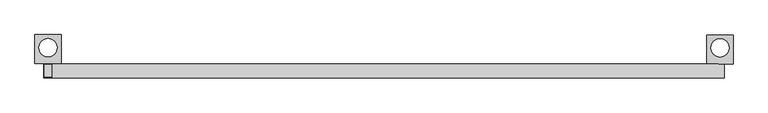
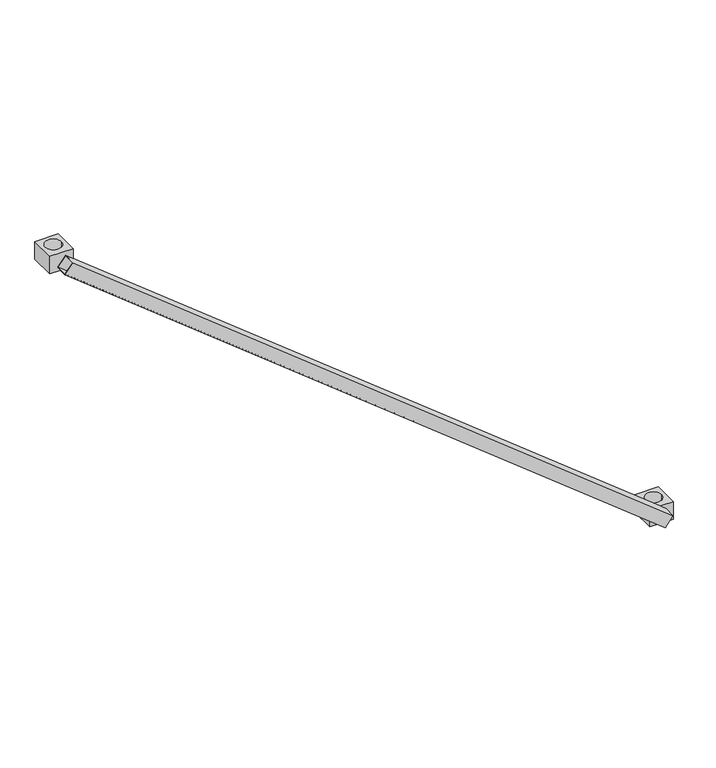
"""IFC4 building model written with IfcOpenShell, lengths in millimetres: proxy geometry, AK_アルバトロスAK伸縮斜材 : H1800×L1800."""

from ifc_helpers import new_model, si_unit, point, frame, frame_2d, origin, place, context, project, spatial, polyline, circle_curve, trimmed, segment, composite_curve, outline, extrude, source, transform, mapped, element, save


def generic_models_a14d9769(model_context):
    return source(origin(), model_context, "Body", "SweptSolid", [
        extrude(outline(polyline([(0.0, 0.0), (0.0, -38.0), (-37.9999999, -38.0), (-37.9999999, 0.0), (0.0, 0.0)]), holes=[polyline([(-2.0, -2.0), (-35.9999999, -2.0), (-35.9999999, -36.0), (-2.0, -36.0), (-2.0, -2.0)])]), frame((11.8277652, 19.0, 14.8695652), z_axis=(-0.7826086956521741, 0.0, 0.6225139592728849), x_axis=(0.6225139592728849, 0.0, 0.7826086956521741)), (0.0, 0.0, 1.0), 2300.0),
        extrude(outline(polyline([(35.0, 96.8842695), (35.0, 19.0), (-35.0, 19.0), (-35.0, 96.8842695), (35.0, 96.8842695)]), holes=[composite_curve([segment(trimmed(circle_curve(frame_2d((0.0, 61.8842695)), 24.3), [point((24.3, 61.8842695))], [point((-24.3, 61.8842695))], True, "CARTESIAN"), True, "CONTINUOUS"), segment(trimmed(circle_curve(frame_2d((0.0, 61.8842695)), 24.3), [point((-24.3, 61.8842695))], [point((24.3, 61.8842695))], True, "CARTESIAN"), True, "CONTINUOUS")], self_intersect=False)]), frame((0.0, 0.0, -27.7559086), z_axis=(0.0, 0.0, 1.0), x_axis=(1.0, 0.0, 0.0)), (0.0, 0.0, 1.0), 55.5118171),
        extrude(outline(polyline([(-1765.0, 19.0), (-1835.0, 19.0), (-1835.0, 96.8842695), (-1765.0, 96.8842695), (-1765.0, 19.0)]), holes=[composite_curve([segment(trimmed(circle_curve(frame_2d((-1800.0, 61.8842695)), 24.3), [point((-1775.7, 61.8842695))], [point((-1824.3, 61.8842695))], True, "CARTESIAN"), True, "CONTINUOUS"), segment(trimmed(circle_curve(frame_2d((-1800.0, 61.8842695)), 24.3), [point((-1824.3, 61.8842695))], [point((-1775.7, 61.8842695))], True, "CARTESIAN"), True, "CONTINUOUS")], self_intersect=False)]), frame((0.0, 0.0, 1404.0261978), z_axis=(0.0, 0.0, 1.0), x_axis=(1.0, 0.0, 0.0)), (0.0, 0.0, 1.0), 55.5118171),
    ])


if __name__ == "__main__":
    model = new_model("IFC4")
    model_context = context("Model", 3, world=origin())
    ifc_project = project(units=[si_unit("LENGTHUNIT", "METRE", prefix="MILLI")], contexts=[model_context])
    site = spatial("IfcSite", under=ifc_project)
    building = spatial("IfcBuilding", under=site)
    placement = place(None, origin())
    generic_models_shape = generic_models_a14d9769(model_context)
    element("IfcBuildingElementProxy", 1, Name="AK_アルバトロスAK伸縮斜材 : H1800×L1800", ObjectType="AK_アルバトロスAK伸縮斜材 : H1800×L1800", at=placement, inside=building, context=model_context, shape_type="MappedRepresentation", body=[
        mapped(generic_models_shape, transform((0.0, 0.0, 0.0), x_axis=(1.0, 0.0, 0.0), y_axis=(0.0, 1.0, 0.0), z_axis=(0.0, 0.0, 1.0))),
    ])
    save(model, "model.ifc")
